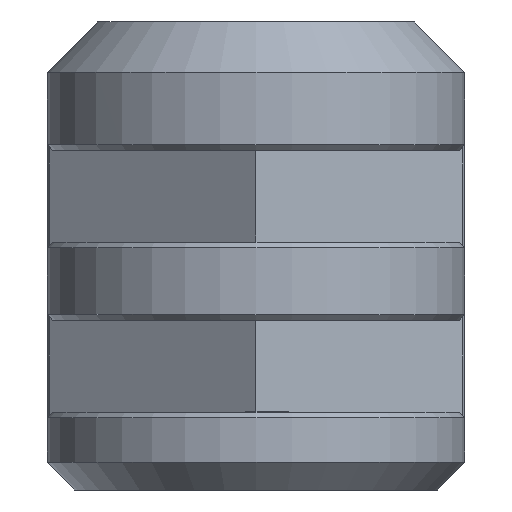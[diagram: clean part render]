
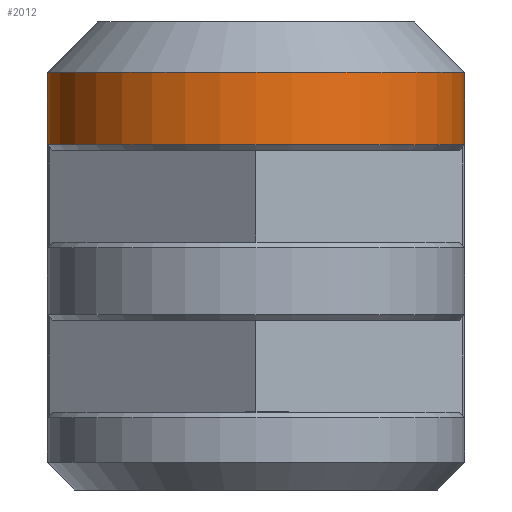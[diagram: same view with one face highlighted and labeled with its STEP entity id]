
A CAD part, left-side view. The second image highlights one B-rep face of the part: STEP entity #2012.
In plain terms, the highlighted cylindrical face has radius 7.5 mm (diameter 15 mm), a partial arc.
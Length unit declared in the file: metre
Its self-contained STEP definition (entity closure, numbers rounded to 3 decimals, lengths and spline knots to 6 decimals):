
#30=ELLIPSE('',#2158,0.010607,0.0075);
#31=ELLIPSE('',#2160,0.010607,0.0075);
#47=CIRCLE('',#2157,0.0075);
#48=CIRCLE('',#2159,0.0075);
#67=CYLINDRICAL_SURFACE('',#2156,0.0075);
#174=ORIENTED_EDGE('',*,*,#653,.T.);
#175=ORIENTED_EDGE('',*,*,#744,.T.);
#176=ORIENTED_EDGE('',*,*,#693,.F.);
#177=ORIENTED_EDGE('',*,*,#745,.T.);
#178=ORIENTED_EDGE('',*,*,#746,.T.);
#179=ORIENTED_EDGE('',*,*,#747,.T.);
#653=EDGE_CURVE('',#942,#941,#1122,.T.);
#693=EDGE_CURVE('',#981,#982,#1162,.T.);
#744=EDGE_CURVE('',#941,#982,#47,.F.);
#745=EDGE_CURVE('',#981,#1014,#30,.F.);
#746=EDGE_CURVE('',#1014,#1013,#48,.F.);
#747=EDGE_CURVE('',#1013,#942,#31,.F.);
#941=VERTEX_POINT('',#2845);
#942=VERTEX_POINT('',#2847);
#981=VERTEX_POINT('',#2926);
#982=VERTEX_POINT('',#2928);
#1013=VERTEX_POINT('',#3002);
#1014=VERTEX_POINT('',#3004);
#1122=LINE('',#2846,#1377);
#1162=LINE('',#2927,#1417);
#1377=VECTOR('',#2288,1.);
#1417=VECTOR('',#2330,1.);
#1648=EDGE_LOOP('',(#174,#175,#176,#177,#178,#179));
#1787=FACE_BOUND('',#1648,.T.);
#2012=ADVANCED_FACE('',(#1787),#67,.T.);
#2156=AXIS2_PLACEMENT_3D('',#3030,#2412,#2413);
#2157=AXIS2_PLACEMENT_3D('',#3031,#2414,#2415);
#2158=AXIS2_PLACEMENT_3D('',#3032,#2416,#2417);
#2159=AXIS2_PLACEMENT_3D('',#3033,#2418,#2419);
#2160=AXIS2_PLACEMENT_3D('',#3034,#2420,#2421);
#2288=DIRECTION('',(0.,0.,-1.));
#2330=DIRECTION('',(0.,0.,-1.));
#2412=DIRECTION('',(0.,0.,-1.));
#2413=DIRECTION('',(-1.,0.,0.));
#2414=DIRECTION('',(0.,0.,-1.));
#2415=DIRECTION('',(-1.,0.,0.));
#2416=DIRECTION('',(0.,0.707,-0.707));
#2417=DIRECTION('',(0.,-0.707,-0.707));
#2418=DIRECTION('',(0.,0.,1.));
#2419=DIRECTION('',(1.,0.,0.));
#2420=DIRECTION('',(0.,-0.707,-0.707));
#2421=DIRECTION('',(0.,0.707,-0.707));
#2845=CARTESIAN_POINT('',(-0.075,0.0075,0.0124));
#2846=CARTESIAN_POINT('',(-0.075,0.0075,0.015));
#2847=CARTESIAN_POINT('',(-0.075,0.0075,0.014));
#2926=CARTESIAN_POINT('',(-0.075,-0.0075,0.014));
#2927=CARTESIAN_POINT('',(-0.075,-0.0075,0.015));
#2928=CARTESIAN_POINT('',(-0.075,-0.0075,0.0124));
#3002=CARTESIAN_POINT('',(-0.071258,0.0065,0.015));
#3004=CARTESIAN_POINT('',(-0.071258,-0.0065,0.015));
#3030=CARTESIAN_POINT('',(-0.075,0.,0.015));
#3031=CARTESIAN_POINT('',(-0.075,0.,0.0124));
#3032=CARTESIAN_POINT('',(-0.075,0.,0.0215));
#3033=CARTESIAN_POINT('',(-0.075,0.,0.015));
#3034=CARTESIAN_POINT('',(-0.075,0.,0.0215));
